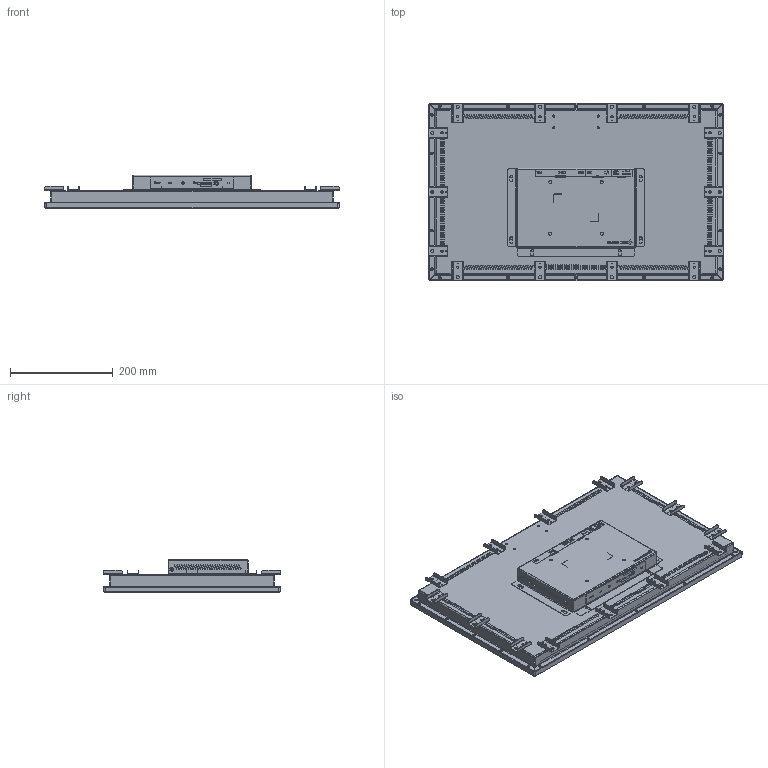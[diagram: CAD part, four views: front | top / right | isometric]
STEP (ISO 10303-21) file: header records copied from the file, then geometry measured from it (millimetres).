
FILE_DESCRIPTION(('STEP AP242'), '1');
FILE_NAME('Ñáîðêà_SDA24W', '', ('UNSPECIFIED'), ('UNSPECIFIED'), 'C3D Converter', 'C3D Toolkit', '');
FILE_SCHEMA(('AP242_MANAGED_MODEL_BASED_3D_ENGINEERING_MIM_LF { 1 0 10303 442 1 1 4 }'));
Length unit declared in the file: millimetre
Products named in the file (1): -в
Bounding box: 573 x 344.9 x 65.6 mm (x, y, z)
Volume: 4187029 mm3; surface area: 1094652.9 mm2
Topology: 3 solids, 4 shells, 4273 faces, 11650 edges, 7618 vertices
Faces by surface type: plane 2138, extrusion 1053, cylinder 1006, bspline 40, cone 34, torus 2
Full cylindrical faces by diameter (mm): 1.6 x14, 2.5 x34, 3 x4, 3.2 x28, 4 x6, 4.2 x14, 4.22 x10, 4.35 x14, 6 x14, 6.1 x4
Entity records: 173054 total; most frequent: CARTESIAN_POINT 32554, ORIENTED_EDGE 22972, DIRECTION 18719, EDGE_CURVE 11486, VECTOR 8349, VERTEX_POINT 7618, LINE 7296, EDGE_LOOP 5420
